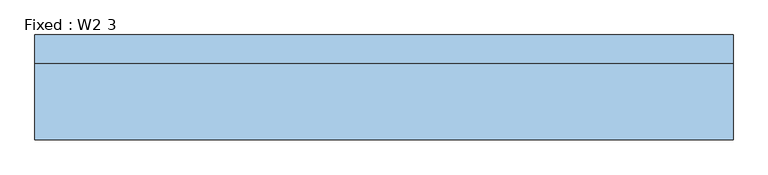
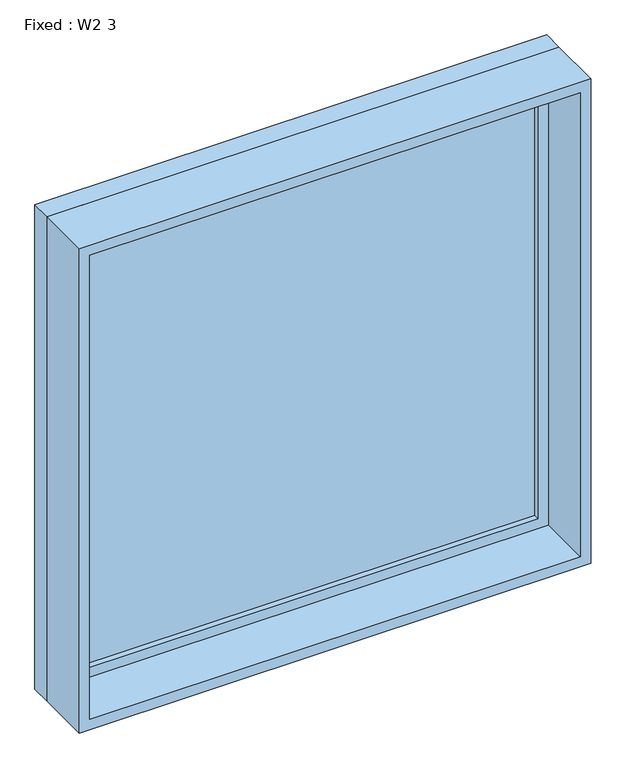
"""IFC4 building model written with IfcOpenShell, lengths in millimetres: window geometry, Fixed : W2 3."""

from ifc_helpers import new_model, si_unit, frame, origin, place, context, project, spatial, polyline, outline, extrude, source, transform, mapped, element, save


def fixed_w2_3_782477aa(model_context):
    return source(origin(), model_context, "Body", "SweptSolid", [
        extrude(outline(polyline([(660.4, 66.675), (-736.6, 66.675), (-736.6, 79.375), (660.4, 79.375), (660.4, 66.675)])), frame((0.0, 0.0, 63.5), z_axis=(0.0, 0.0, 1.0), x_axis=(1.0, 0.0, 0.0)), (0.0, 0.0, 1.0), 1397.0),
        extrude(outline(polyline([(1504.95, -781.05), (19.05, -781.05), (19.05, 704.85), (1504.95, 704.85), (1504.95, -781.05)]), holes=[polyline([(1460.5, -736.6), (1460.5, 660.4), (63.5, 660.4), (63.5, -736.6), (1460.5, -736.6)])]), frame((0.0, 50.8, 0.0), z_axis=(0.0, 1.0, 0.0), x_axis=(0.0, 0.0, 1.0)), (0.0, 0.0, 1.0), 44.45),
        extrude(outline(polyline([(1524.0, -800.1), (0.0, -800.1), (0.0, 723.9), (1524.0, 723.9), (1524.0, -800.1)]), holes=[polyline([(1492.25, -768.35), (1492.25, 692.15), (31.75, 692.15), (31.75, -768.35), (1492.25, -768.35)])]), frame((0.0, -114.3, 0.0), z_axis=(0.0, 1.0, 0.0), x_axis=(0.0, 0.0, 1.0)), (0.0, 0.0, 1.0), 165.1),
        extrude(outline(polyline([(1524.0, 723.9), (1524.0, -800.1), (0.0, -800.1), (0.0, 723.9), (1524.0, 723.9)]), holes=[polyline([(1504.95, 704.85), (19.05, 704.85), (19.05, -781.05), (1504.95, -781.05), (1504.95, 704.85)])]), frame((0.0, 50.8, 0.0), z_axis=(0.0, 1.0, 0.0), x_axis=(0.0, 0.0, 1.0)), (0.0, 0.0, 1.0), 63.5),
    ])


if __name__ == "__main__":
    model = new_model("IFC4")
    model_context = context("Model", 3, world=origin())
    ifc_project = project(units=[si_unit("LENGTHUNIT", "METRE", prefix="MILLI")], contexts=[model_context])
    site = spatial("IfcSite", under=ifc_project)
    building = spatial("IfcBuilding", under=site)
    placement = place(None, origin())
    fixed_w2_3_shape = fixed_w2_3_782477aa(model_context)
    element("IfcWindow", 1, ObjectType="Fixed : W2 3", at=placement, inside=building, context=model_context, shape_type="MappedRepresentation", body=[
        mapped(fixed_w2_3_shape, transform((0.0, 0.0, 0.0), x_axis=(1.0, 0.0, 0.0), y_axis=(0.0, 1.0, 0.0), z_axis=(0.0, 0.0, 1.0))),
    ])
    save(model, "model.ifc")
